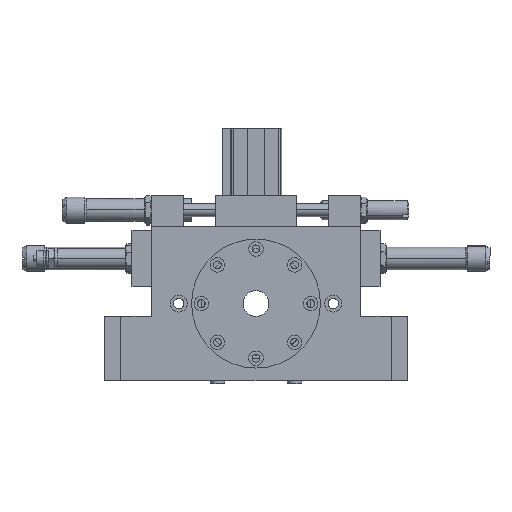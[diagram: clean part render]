
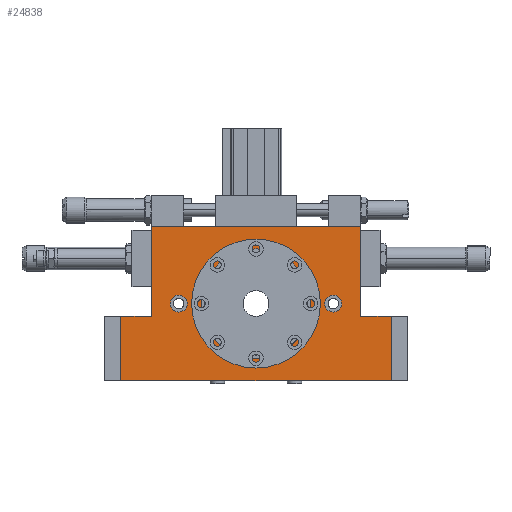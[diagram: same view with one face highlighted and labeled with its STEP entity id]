
A CAD part, front view. The second image highlights one B-rep face of the part: STEP entity #24838.
In plain terms, the highlighted planar face has unit normal (0, -1, 0).
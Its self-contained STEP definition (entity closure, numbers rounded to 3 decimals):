
#3956=CARTESIAN_POINT('',(-30.75,-74.0,48.));
#3957=VERTEX_POINT('',#3956);
#3973=CARTESIAN_POINT('',(-41.25,-74.0,48.));
#3974=VERTEX_POINT('',#3973);
#3981=CARTESIAN_POINT('',(-36.0,-74.0,48.));
#3982=DIRECTION('',(0.0,1.0,0.0));
#3983=DIRECTION('',(1.0,0.0,0.0));
#3984=AXIS2_PLACEMENT_3D('',#3981,#3982,#3983);
#3985=CIRCLE('',#3984,5.25);
#3986=EDGE_CURVE('',#3957,#3974,#3985,.T.);
#4082=CARTESIAN_POINT('',(-126.75,-74.0,48.));
#4083=VERTEX_POINT('',#4082);
#4099=CARTESIAN_POINT('',(-137.25,-74.0,48.));
#4100=VERTEX_POINT('',#4099);
#4107=CARTESIAN_POINT('',(-132.0,-74.0,48.));
#4108=DIRECTION('',(0.0,1.0,0.0));
#4109=DIRECTION('',(1.0,0.0,0.0));
#4110=AXIS2_PLACEMENT_3D('',#4107,#4108,#4109);
#4111=CIRCLE('',#4110,5.25);
#4112=EDGE_CURVE('',#4083,#4100,#4111,.T.);
#4208=CARTESIAN_POINT('',(-50.0,-74.0,48.));
#4209=VERTEX_POINT('',#4208);
#4234=CARTESIAN_POINT('',(-118.0,-74.0,48.));
#4235=VERTEX_POINT('',#4234);
#4242=CARTESIAN_POINT('',(-84.0,-74.0,48.));
#4243=DIRECTION('',(0.0,1.0,0.0));
#4244=DIRECTION('',(1.0,0.0,0.0));
#4245=AXIS2_PLACEMENT_3D('',#4242,#4243,#4244);
#4246=CIRCLE('',#4245,34.0);
#4247=EDGE_CURVE('',#4209,#4235,#4246,.T.);
#18076=CARTESIAN_POINT('',(-149.0,-74.0,96.));
#18077=VERTEX_POINT('',#18076);
#18084=CARTESIAN_POINT('',(-19.0,-74.0,96.));
#18085=VERTEX_POINT('',#18084);
#18086=CARTESIAN_POINT('',(-149.0,-74.0,96.));
#18087=DIRECTION('',(1.0,0.0,0.0));
#18088=VECTOR('',#18087,130.0);
#18089=LINE('',#18086,#18088);
#18090=EDGE_CURVE('',#18077,#18085,#18089,.T.);
#21644=CARTESIAN_POINT('',(-149.0,-74.0,40.));
#21645=VERTEX_POINT('',#21644);
#21646=CARTESIAN_POINT('',(-149.0,-74.0,40.));
#21647=DIRECTION('',(0.0,0.0,1.0));
#21648=VECTOR('',#21647,56.);
#21649=LINE('',#21646,#21648);
#21650=EDGE_CURVE('',#21645,#18077,#21649,.T.);
#22012=CARTESIAN_POINT('',(-19.0,-74.0,40.0));
#22013=VERTEX_POINT('',#22012);
#22014=CARTESIAN_POINT('',(-19.0,-74.0,96.));
#22015=DIRECTION('',(0.0,0.0,-1.0));
#22016=VECTOR('',#22015,56.);
#22017=LINE('',#22014,#22016);
#22018=EDGE_CURVE('',#18085,#22013,#22017,.T.);
#22788=CARTESIAN_POINT('',(0.0,-74.0,40.0));
#22789=VERTEX_POINT('',#22788);
#22796=CARTESIAN_POINT('',(0.0,-74.0,0.0));
#22797=VERTEX_POINT('',#22796);
#22798=CARTESIAN_POINT('',(0.0,-74.0,40.0));
#22799=DIRECTION('',(0.0,0.0,-1.0));
#22800=VECTOR('',#22799,40.0);
#22801=LINE('',#22798,#22800);
#22802=EDGE_CURVE('',#22789,#22797,#22801,.T.);
#23063=CARTESIAN_POINT('',(-168.0,-74.0,0.));
#23064=VERTEX_POINT('',#23063);
#23071=CARTESIAN_POINT('',(-168.0,-74.0,40.));
#23072=VERTEX_POINT('',#23071);
#23073=CARTESIAN_POINT('',(-168.0,-74.0,0.));
#23074=DIRECTION('',(0.0,0.0,1.0));
#23075=VECTOR('',#23074,40.);
#23076=LINE('',#23073,#23075);
#23077=EDGE_CURVE('',#23064,#23072,#23076,.T.);
#24393=CARTESIAN_POINT('',(-84.0,-74.0,48.));
#24394=DIRECTION('',(0.0,1.0,0.0));
#24395=DIRECTION('',(1.0,0.0,0.0));
#24396=AXIS2_PLACEMENT_3D('',#24393,#24394,#24395);
#24397=CIRCLE('',#24396,34.0);
#24398=EDGE_CURVE('',#4235,#4209,#24397,.T.);
#24517=CARTESIAN_POINT('',(-132.0,-74.0,48.));
#24518=DIRECTION('',(0.0,1.0,0.0));
#24519=DIRECTION('',(1.0,0.0,0.0));
#24520=AXIS2_PLACEMENT_3D('',#24517,#24518,#24519);
#24521=CIRCLE('',#24520,5.25);
#24522=EDGE_CURVE('',#4100,#4083,#24521,.T.);
#24615=CARTESIAN_POINT('',(-36.0,-74.0,48.));
#24616=DIRECTION('',(0.0,1.0,0.0));
#24617=DIRECTION('',(1.0,0.0,0.0));
#24618=AXIS2_PLACEMENT_3D('',#24615,#24616,#24617);
#24619=CIRCLE('',#24618,5.25);
#24620=EDGE_CURVE('',#3974,#3957,#24619,.T.);
#24682=CARTESIAN_POINT('',(0.0,-74.0,0.0));
#24683=DIRECTION('',(-1.0,0.0,0.0));
#24684=VECTOR('',#24683,168.0);
#24685=LINE('',#24682,#24684);
#24686=EDGE_CURVE('',#22797,#23064,#24685,.T.);
#24724=CARTESIAN_POINT('',(-168.0,-74.0,40.));
#24725=DIRECTION('',(1.0,0.0,0.0));
#24726=VECTOR('',#24725,19.0);
#24727=LINE('',#24724,#24726);
#24728=EDGE_CURVE('',#23072,#21645,#24727,.T.);
#24748=CARTESIAN_POINT('',(-19.0,-74.0,40.0));
#24749=DIRECTION('',(1.0,0.0,0.0));
#24750=VECTOR('',#24749,19.0);
#24751=LINE('',#24748,#24750);
#24752=EDGE_CURVE('',#22013,#22789,#24751,.T.);
#24811=CARTESIAN_POINT('',(-84.,-74.0,43.97));
#24812=DIRECTION('',(0.0,1.0,0.0));
#24813=DIRECTION('',(0.0,0.0,1.0));
#24814=AXIS2_PLACEMENT_3D('',#24811,#24812,#24813);
#24815=PLANE('',#24814);
#24816=ORIENTED_EDGE('',*,*,#24686,.F.);
#24817=ORIENTED_EDGE('',*,*,#22802,.F.);
#24818=ORIENTED_EDGE('',*,*,#24752,.F.);
#24819=ORIENTED_EDGE('',*,*,#22018,.F.);
#24820=ORIENTED_EDGE('',*,*,#18090,.F.);
#24821=ORIENTED_EDGE('',*,*,#21650,.F.);
#24822=ORIENTED_EDGE('',*,*,#24728,.F.);
#24823=ORIENTED_EDGE('',*,*,#23077,.F.);
#24824=EDGE_LOOP('',(#24816,#24817,#24818,#24819,#24820,#24821,#24822,#24823));
#24825=FACE_OUTER_BOUND('',#24824,.T.);
#24826=ORIENTED_EDGE('',*,*,#4247,.T.);
#24827=ORIENTED_EDGE('',*,*,#24398,.T.);
#24828=EDGE_LOOP('',(#24826,#24827));
#24829=FACE_BOUND('',#24828,.T.);
#24830=ORIENTED_EDGE('',*,*,#4112,.T.);
#24831=ORIENTED_EDGE('',*,*,#24522,.T.);
#24832=EDGE_LOOP('',(#24830,#24831));
#24833=FACE_BOUND('',#24832,.T.);
#24834=ORIENTED_EDGE('',*,*,#3986,.T.);
#24835=ORIENTED_EDGE('',*,*,#24620,.T.);
#24836=EDGE_LOOP('',(#24834,#24835));
#24837=FACE_BOUND('',#24836,.T.);
#24838=ADVANCED_FACE('',(#24825,#24829,#24833,#24837),#24815,.F.);
